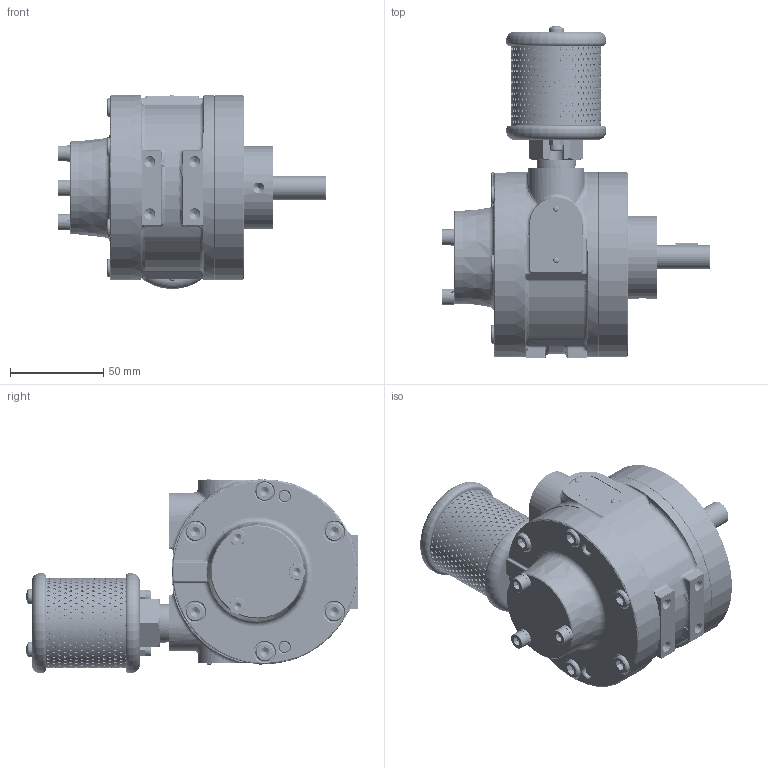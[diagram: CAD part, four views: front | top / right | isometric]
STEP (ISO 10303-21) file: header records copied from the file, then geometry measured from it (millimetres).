
FILE_DESCRIPTION (( 'STEP AP214' ), '1' );
FILE_NAME ('4VML (Face)_Solid 29-07-25.STEP', '2025-07-29T11:25:16', ( '' ), ( '' ), 'SwSTEP 2.0', 'SolidWorks 2017', '' );
FILE_SCHEMA (( 'AUTOMOTIVE_DESIGN' ));
Length unit declared in the file: millimetre
Products named in the file (2): 4VML (Face)_Solid 29-07-25
Bounding box: 144.03 x 177.92 x 104.05 mm (x, y, z)
Volume: 667441.1 mm3; surface area: 234645.4 mm2
Topology: 78 solids, 78 shells, 4773 faces, 12381 edges, 7708 vertices
Faces by surface type: cylinder 2509, cone 1050, plane 829, torus 245, bspline 126, sphere 14
Entity records: 272463 total; most frequent: CARTESIAN_POINT 105142, ORIENTED_EDGE 24498, DIRECTION 21616, EDGE_CURVE 12249, AXIS2_PLACEMENT_3D 8475, VERTEX_POINT 7708, EDGE_LOOP 6483, UNCERTAINTY_MEASURE_WITH_UNIT 4853
